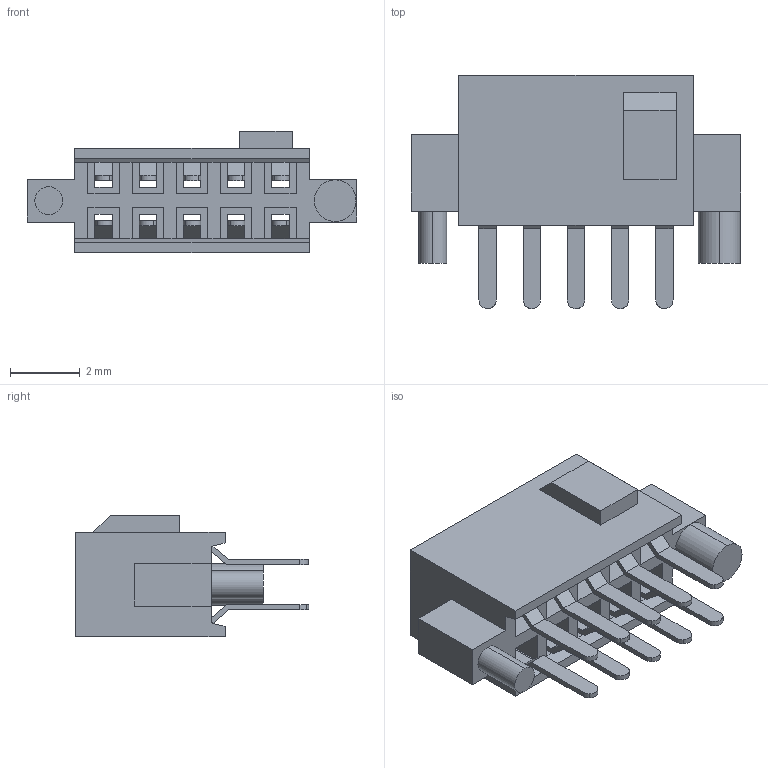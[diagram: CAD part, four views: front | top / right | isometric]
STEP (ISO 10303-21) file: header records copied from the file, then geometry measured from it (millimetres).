
FILE_DESCRIPTION (( 'STEP AP214' ), '1' );
FILE_NAME ('PM127-2-5-Z-4.3-XX-SP(L6.7) (1.27 双排 排母 直针 带外柱 塑高4.3-HCTL).STEP', '2024-10-26T08:33:14', ( '' ), ( '' ), 'SwSTEP 2.0', 'SolidWorks 2022', '' );
FILE_SCHEMA (( 'AUTOMOTIVE_DESIGN' ));
Length unit declared in the file: millimetre
Products named in the file (1): PM127-2-5-Z-4.3-XX-SP(L6.7) (1.27 双排 排母 直针 带外柱 塑高4.3-HCTL)
Bounding box: 9.47 x 6.7 x 3.5 mm (x, y, z)
Volume: 65.3 mm3; surface area: 331.6 mm2
Topology: 1 solids, 1 shells, 270 faces, 715 edges, 450 vertices
Faces by surface type: plane 245, cylinder 25
Entity records: 8203 total; most frequent: CARTESIAN_POINT 1436, ORIENTED_EDGE 1430, DIRECTION 1307, EDGE_CURVE 715, LINE 665, VECTOR 665, VERTEX_POINT 450, AXIS2_PLACEMENT_3D 321
